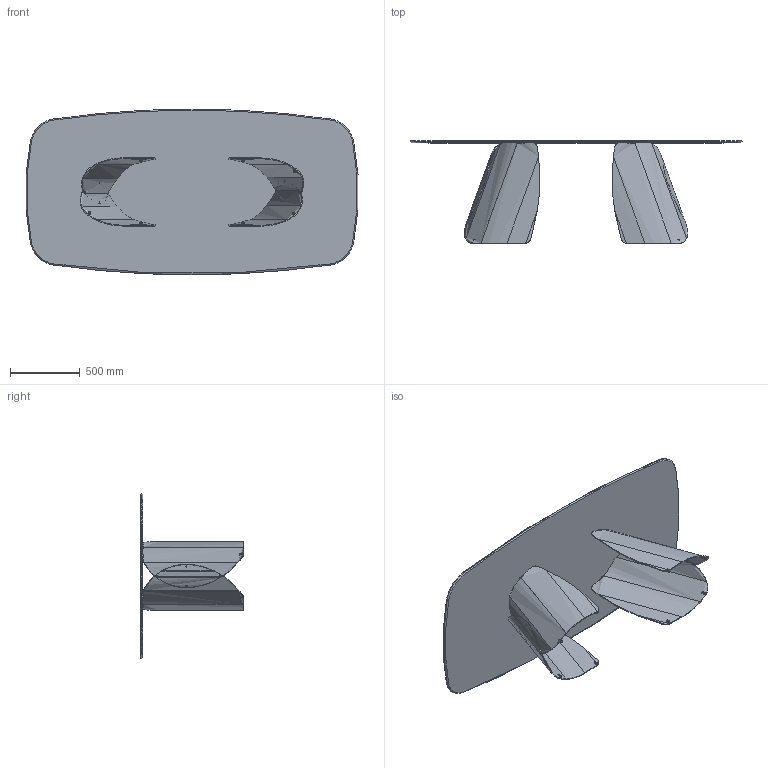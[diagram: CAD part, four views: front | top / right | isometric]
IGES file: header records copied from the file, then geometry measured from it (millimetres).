
Start section: SolidWorks IGES file using analytic representation for surfaces
Global section: file name: Y:\eforma\TECNICO\SOLIDWORKS\E-FORMA\1-TAVOLI\PERLA\02 parts\PA42C_Perla 239x119_Ceramic Shaped.IGS; native system: SolidWorks 2022; preprocessor: SolidWorks 2022; author: eforma.tech; date: 240801.145356; units: millimetre
Bounding box: 2382.15 x 737.5 x 1190 mm (x, y, z)
Volume: 51734363.8 mm3; surface area: 13960657.8 mm2
Topology: 34 solids, 34 shells, 497 faces, 1103 edges, 674 vertices
Faces by surface type: revolution 263, bspline 130, plane 104
